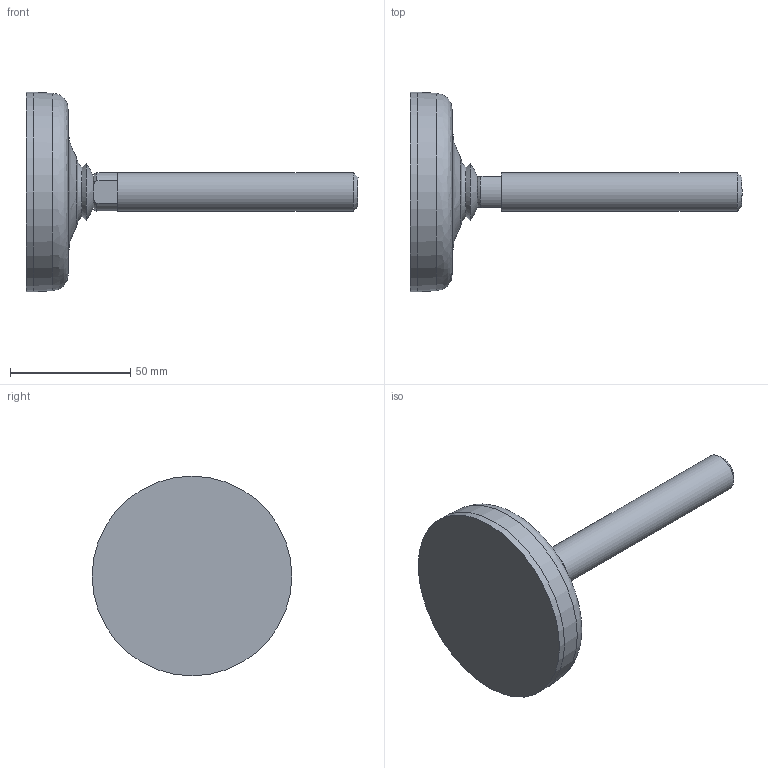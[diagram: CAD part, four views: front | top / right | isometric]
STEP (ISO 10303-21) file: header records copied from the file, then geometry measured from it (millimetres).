
FILE_DESCRIPTION(('STEP AP203'),'2;1');
FILE_NAME('18223.stp','2014-01-24T14:36:24',(''),(''),'2008.1.107','THINKDESIGN','');
FILE_SCHEMA(('CONFIG_CONTROL_DESIGN'));
Length unit declared in the file: millimetre
Bounding box: 138 x 83 x 83 mm (x, y, z)
Volume: 119085.8 mm3; surface area: 32611.9 mm2
Topology: 5 solids, 5 shells, 27 faces, 57 edges, 42 vertices
Faces by surface type: plane 13, bspline 10, cylinder 4
Full cylindrical faces by diameter (mm): 16 x1, 83 x1
Entity records: 1500 total; most frequent: CARTESIAN_POINT 729, DIRECTION 128, ORIENTED_EDGE 112, AXIS2_PLACEMENT_3D 58, EDGE_CURVE 56, CIRCLE 41, VERTEX_POINT 40, EDGE_LOOP 28
